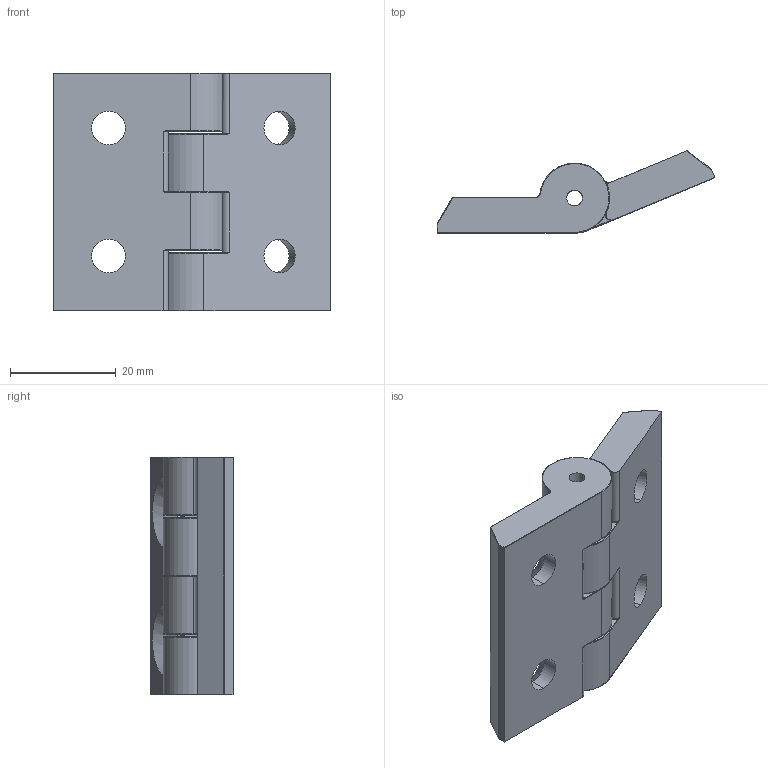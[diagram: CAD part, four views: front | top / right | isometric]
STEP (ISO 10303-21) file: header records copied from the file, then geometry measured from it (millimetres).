
FILE_DESCRIPTION (( 'STEP AP214' ), '1' );
FILE_NAME ('8-8-30Metal.STEP', '2019-01-13T19:47:45', ( '' ), ( '' ), 'SwSTEP 2.0', 'SolidWorks 2018', '' );
FILE_SCHEMA (( 'AUTOMOTIVE_DESIGN' ));
Length unit declared in the file: millimetre
Products named in the file (2): 3030 Metal; 8-8-30Metal
Assembly tree (2 placements, depth 2):
  8-8-30Metal
    3030 Metal  x2
Bounding box: 52.55 x 15.53 x 45 mm (x, y, z)
Volume: 15885.1 mm3; surface area: 8122.4 mm2
Topology: 2 solids, 2 shells, 148 faces, 368 edges, 210 vertices
Faces by surface type: cylinder 64, torus 44, plane 18, bspline 12, cone 8, sphere 2
Entity records: 2400 total; most frequent: CARTESIAN_POINT 595, DIRECTION 401, ORIENTED_EDGE 354, EDGE_CURVE 177, AXIS2_PLACEMENT_3D 172, VERTEX_POINT 105, CIRCLE 99, EDGE_LOOP 82
